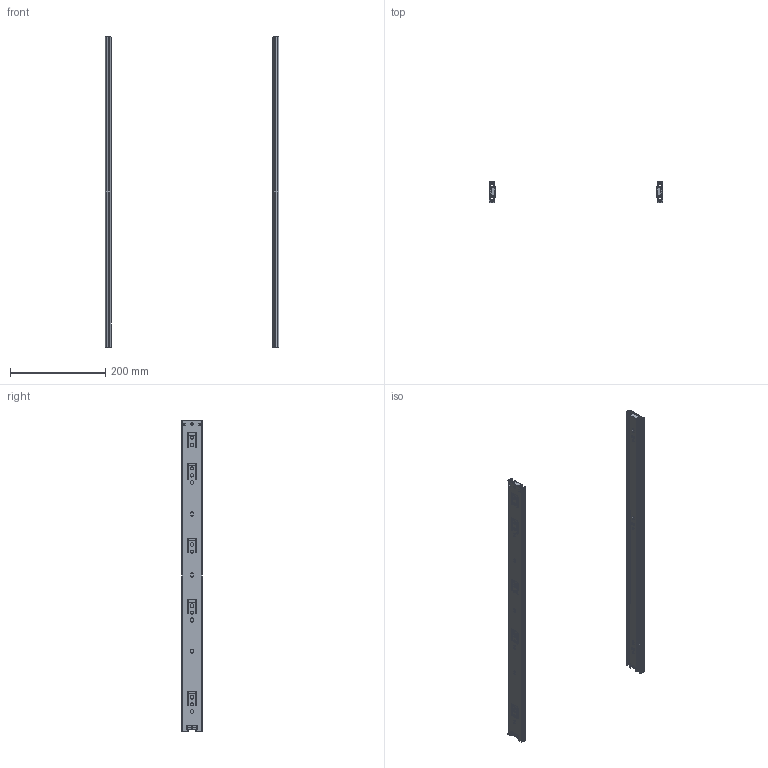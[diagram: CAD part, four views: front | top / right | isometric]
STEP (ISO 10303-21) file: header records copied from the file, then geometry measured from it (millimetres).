
FILE_DESCRIPTION(/* description */ (''),/* implementation_level */ '2;1');
FILE_NAME(/* name */ 'D:\$Workingspace\Designs\Katalog\Cadsoft\GTV Prowadnice\Prowadnice GTV_bryły 3D\PK-0H45650GX1.stp',/* time_stamp */ '2016-11-22T12:20:14+01:00',/* author */ ('tomaszw'),/* organization */ (''),/* preprocessor_version */ 'ST-DEVELOPER v16.1',/* originating_system */ 'Autodesk Inventor 2016',/* authorisation */ '');
FILE_SCHEMA (('AUTOMOTIVE_DESIGN { 1 0 10303 214 3 1 1 }'));
Length unit declared in the file: millimetre
Products named in the file (5): Blokada_5; PK-0H45_1-650-GX1; PK-0H45_2-650-GX1; PK-0H45_3-650-GX1; PK-0H45-_-GX1
Assembly tree (8 placements, depth 2):
  PK-0H45-_-GX1
    Blokada_5  x2
    PK-0H45_1-650-GX1  x2
    PK-0H45_2-650-GX1  x2
    PK-0H45_3-650-GX1  x2
Bounding box: 364 x 43.8 x 650 mm (x, y, z)
Volume: 191400.4 mm3; surface area: 391111.2 mm2
Topology: 8 solids, 8 shells, 560 faces, 1624 edges, 1080 vertices
Faces by surface type: cylinder 284, plane 272, cone 4
Full cylindrical faces by diameter (mm): 4.5 x6, 5 x2, 6 x10, 7 x4
Entity records: 9837 total; most frequent: DIRECTION 1661, CARTESIAN_POINT 1660, ORIENTED_EDGE 1602, EDGE_CURVE 801, AXIS2_PLACEMENT_3D 575, VERTEX_POINT 540, LINE 511, VECTOR 511
